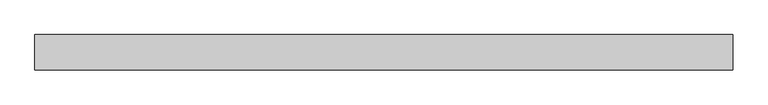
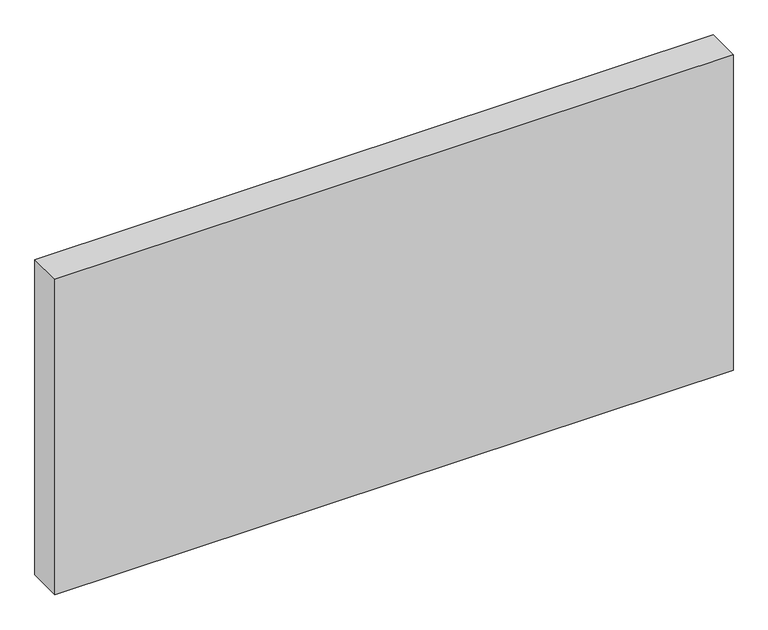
"""IFC4 building model written with IfcOpenShell, lengths in millimetres: plate geometry, Системная панель : Алюкобонд серый."""

from ifc_helpers import new_model, si_unit, origin, origin_with_axes, place, context, project, spatial, polyline, outline, extrude, source, transform, mapped, element, save


def plate_d7ee39ad(model_context):
    return source(origin(), model_context, "Body", "SweptSolid", [
        extrude(outline(polyline([(590.0, -10.5), (-590.0, -10.5), (-590.0, 49.5), (590.0, 49.5), (590.0, -10.5)])), origin_with_axes(), (0.0, 0.0, 1.0), 580.0),
    ])


if __name__ == "__main__":
    model = new_model("IFC4")
    model_context = context("Model", 3, world=origin())
    ifc_project = project(units=[si_unit("LENGTHUNIT", "METRE", prefix="MILLI")], contexts=[model_context])
    site = spatial("IfcSite", under=ifc_project)
    building = spatial("IfcBuilding", under=site)
    placement = place(None, origin())
    plate_shape = plate_d7ee39ad(model_context)
    element("IfcPlate", 1, ObjectType="Системная панель : Алюкобонд серый", at=placement, inside=building, context=model_context, shape_type="MappedRepresentation", body=[
        mapped(plate_shape, transform((0.0, 0.0, 0.0), x_axis=(1.0, 0.0, 0.0), y_axis=(0.0, 1.0, 0.0), z_axis=(0.0, 0.0, 1.0))),
    ])
    save(model, "model.ifc")
